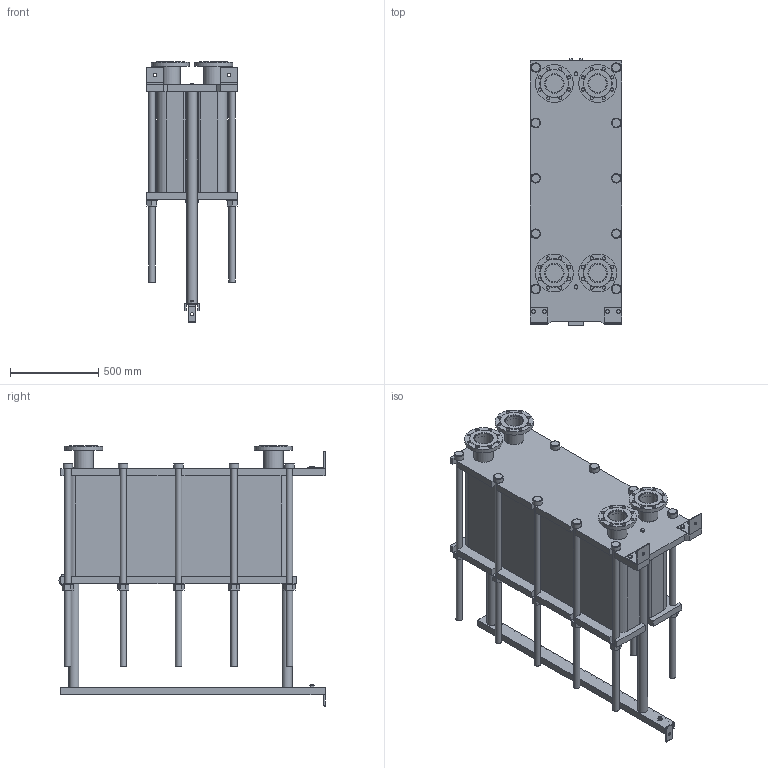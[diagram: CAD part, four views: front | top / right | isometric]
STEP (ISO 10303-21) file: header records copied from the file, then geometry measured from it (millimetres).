
FILE_DESCRIPTION(/* description */ (''),/* implementation_level */ '2;1');
FILE_NAME(/* name */ 'C:\Users\zhuro\Desktop\ENCO\TO\ЭН-04\ЭН-0,5-04-166-1.stp',/* time_stamp */ '2022-06-06T10:59:57+03:00',/* author */ ('zhuro'),/* organization */ (''),/* preprocessor_version */ 'ST-DEVELOPER v18.1',/* originating_system */ 'Autodesk Inventor 2022',/* authorisation */ '');
FILE_SCHEMA (('AUTOMOTIVE_DESIGN { 1 0 10303 214 3 1 1 }'));
Length unit declared in the file: millimetre
Products named in the file (1): ЭН-0,5-04-166-1
Bounding box: 520 x 1510 x 1478 mm (x, y, z)
Volume: 360969034.2 mm3; surface area: 9806608.2 mm2
Topology: 45 solids, 45 shells, 668 faces, 1611 edges, 1048 vertices
Faces by surface type: plane 457, cylinder 166, cone 39, torus 6
Full cylindrical faces by diameter (mm): 8 x4, 10 x2, 16 x8, 18 x35, 36 x25, 40 x2, 42 x1, 45 x4, 54 x10, 57 x2, 60 x10, 68 x2, 100 x4, 110 x8, 215 x4
Entity records: 23607 total; most frequent: CARTESIAN_POINT 7348, DIRECTION 3371, ORIENTED_EDGE 3142, EDGE_CURVE 1571, AXIS2_PLACEMENT_3D 1199, VERTEX_POINT 1044, LINE 973, VECTOR 973
